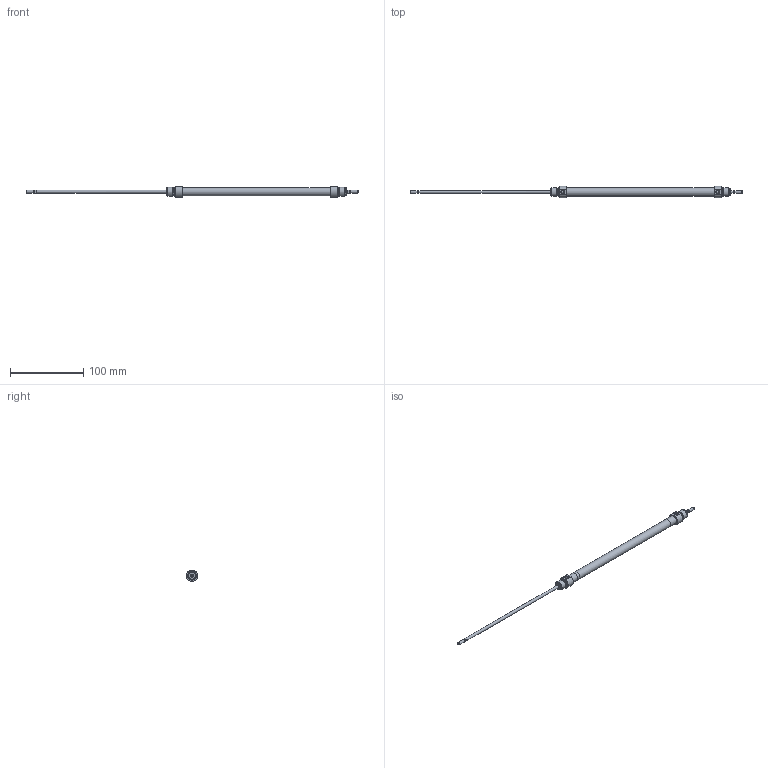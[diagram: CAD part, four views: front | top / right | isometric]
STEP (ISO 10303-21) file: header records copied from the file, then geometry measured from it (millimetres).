
FILE_DESCRIPTION( ( 'STEP AP203' ), '1' );
FILE_NAME( '//expscmdclustefs.cadenas.external/client_exchange/iodir/jobs/output/wkb68273323_no0/STEP/M101-010-0175--__0__2_03.stp', ' ', ( ' ' ), ( ' ' ), 'PSStep 15.0.47', 'PARTsolutions', ' ' );
FILE_SCHEMA( ( 'CONFIG_CONTROL_DESIGN' ) );
Length unit declared in the file: millimetre
Products named in the file (3): M101-010-0175-- [0]; HI_M101-010-0175---[0]-z; HI_M101-010-0175---[0]-k
Assembly tree (2 placements, depth 2):
  M101-010-0175-- [0]
    HI_M101-010-0175---[0]-z
    HI_M101-010-0175---[0]-k
Bounding box: 452 x 15.77 x 14.87 mm (x, y, z)
Volume: 17412.8 mm3; surface area: 22144.7 mm2
Topology: 2 solids, 2 shells, 71 faces, 145 edges, 88 vertices
Faces by surface type: plane 32, cylinder 23, cone 14, torus 2
Full cylindrical faces by diameter (mm): 3.141 x2, 4 x6, 4.134 x2, 10 x2, 10.466 x4, 11.3 x1, 12 x4
Entity records: 1832 total; most frequent: CARTESIAN_POINT 352, DIRECTION 312, ORIENTED_EDGE 212, AXIS2_PLACEMENT_3D 140, EDGE_LOOP 120, EDGE_CURVE 106, FACE_OUTER_BOUND 94, VERTEX_POINT 82
